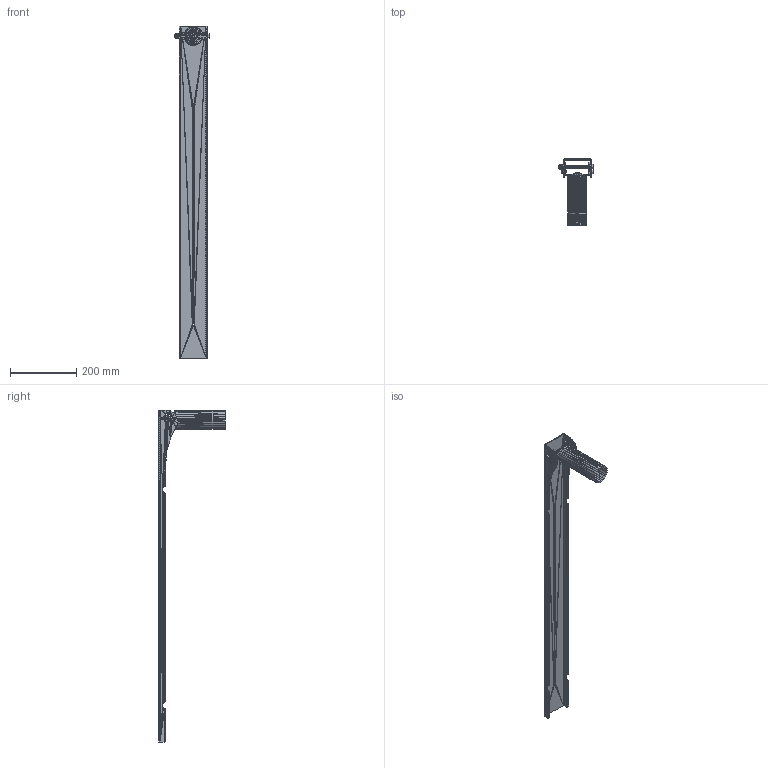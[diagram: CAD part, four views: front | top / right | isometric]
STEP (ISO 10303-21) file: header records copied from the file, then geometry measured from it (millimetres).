
FILE_DESCRIPTION((''),'2;1');
FILE_NAME('051083', '2026-02-10T10:14:12', (''), (''), 'ImageToStl.com STEP Converter','', '');
FILE_SCHEMA(('AUTOMOTIVE_DESIGN_CC2'));
Length unit declared in the file: metre
Products named in the file (1): product0
Bounding box: 104.7 x 200 x 1000 mm (x, y, z)
Surface area: 321450.1 mm2 (no closed solid volume)
Topology: 0 solids, 9476 shells, 9476 faces, 28428 edges, 4718 vertices
Faces by surface type: plane 9476
Entity records: 217936 total; most frequent: DIRECTION 47382, ORIENTED_EDGE 28428, EDGE_CURVE 28428, LINE 28428, VECTOR 28428, AXIS2_PLACEMENT_3D 9477, FACE_SURFACE 9476, PLANE 9476
